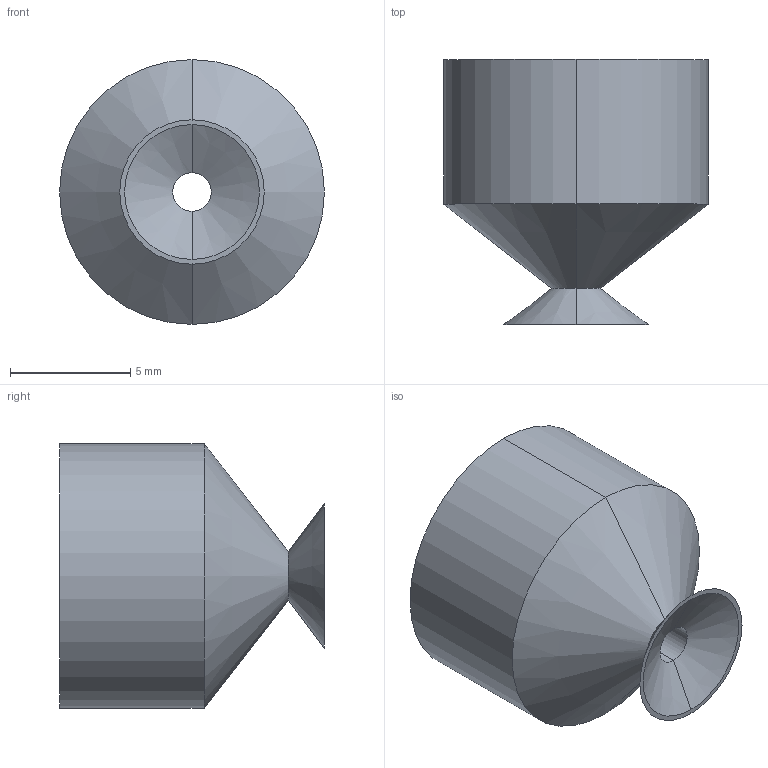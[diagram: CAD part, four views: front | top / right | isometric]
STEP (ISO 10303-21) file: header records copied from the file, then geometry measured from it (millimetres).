
FILE_DESCRIPTION (( 'STEP AP214' ), '1' );
FILE_NAME ('VSH-S6.STEP', '2019-11-30T07:50:46', ( '微软用户' ), ( '微软中国' ), 'SwSTEP 2.0', 'SolidWorks 2016', '' );
FILE_SCHEMA (( 'AUTOMOTIVE_DESIGN' ));
Length unit declared in the file: millimetre
Products named in the file (1): VSH-S6
Bounding box: 11 x 11 x 11 mm (x, y, z)
Volume: 545.6 mm3; surface area: 635.5 mm2
Topology: 1 solids, 1 shells, 18 faces, 36 edges, 22 vertices
Faces by surface type: cylinder 8, cone 6, plane 4
Entity records: 512 total; most frequent: DIRECTION 96, CARTESIAN_POINT 77, ORIENTED_EDGE 72, AXIS2_PLACEMENT_3D 41, EDGE_CURVE 36, CIRCLE 22, VERTEX_POINT 22, EDGE_LOOP 22
